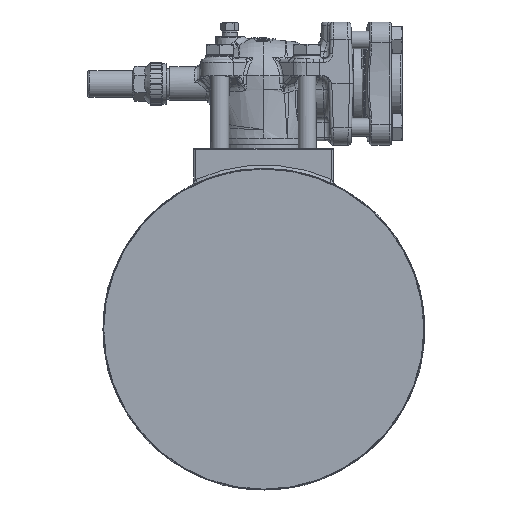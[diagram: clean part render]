
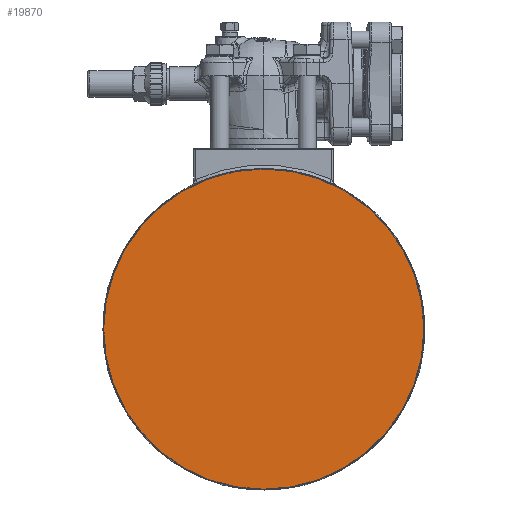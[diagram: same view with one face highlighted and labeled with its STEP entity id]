
A CAD part, left-side view. The second image highlights one B-rep face of the part: STEP entity #19870.
In plain terms, the highlighted planar face has unit normal (-1, 0, 0) as drawn and (0, 1, 0) by its records, which use the part's own axes.
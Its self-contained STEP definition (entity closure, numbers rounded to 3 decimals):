
#14399=FACE_OUTER_BOUND('',#27872,.T.);
#19870=ADVANCED_FACE('',(#14399),#20593,.F.);
#20593=PLANE('',#53730);
#27872=EDGE_LOOP('',(#39674,#39675));
#39674=ORIENTED_EDGE('',*,*,#49286,.T.);
#39675=ORIENTED_EDGE('',*,*,#49287,.T.);
#43383=VERTEX_POINT('',#113745);
#43384=VERTEX_POINT('',#113746);
#49286=EDGE_CURVE('',#43383,#43384,#50759,.T.);
#49287=EDGE_CURVE('',#43384,#43383,#50760,.T.);
#50759=CIRCLE('',#53728,142.9);
#50760=CIRCLE('',#53729,142.9);
#53728=AXIS2_PLACEMENT_3D('',#113744,#61863,#61864);
#53729=AXIS2_PLACEMENT_3D('',#113747,#61865,#61866);
#53730=AXIS2_PLACEMENT_3D('',#113748,#61867,#61868);
#61863=DIRECTION('',(0.,1.,0.));
#61864=DIRECTION('',(0.,0.,-1.));
#61865=DIRECTION('',(0.,1.,0.));
#61866=DIRECTION('',(0.,0.,-1.));
#61867=DIRECTION('',(0.,-1.,0.));
#61868=DIRECTION('',(1.,0.,0.003));
#113744=CARTESIAN_POINT('',(0.,1.,0.));
#113745=CARTESIAN_POINT('',(-142.899,1.,-0.494));
#113746=CARTESIAN_POINT('',(142.899,1.,0.494));
#113747=CARTESIAN_POINT('',(0.,1.,0.));
#113748=CARTESIAN_POINT('',(-200.764,1.,-223.515));
